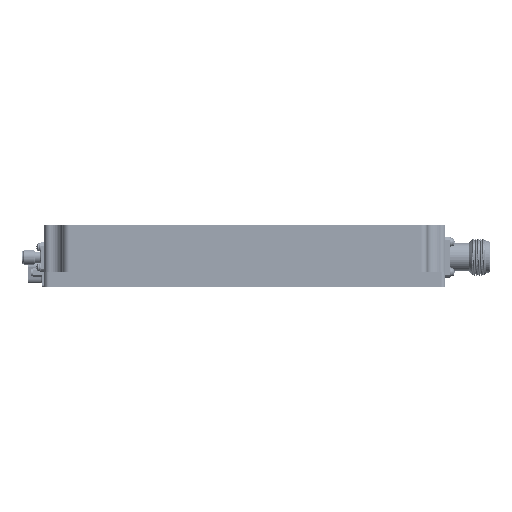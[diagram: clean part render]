
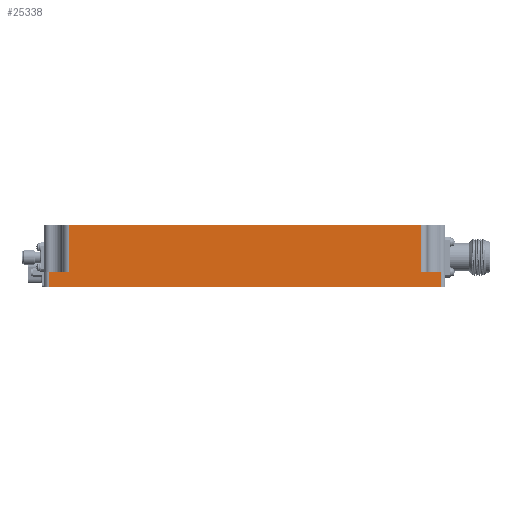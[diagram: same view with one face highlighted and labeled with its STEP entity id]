
A CAD part, front view. The second image highlights one B-rep face of the part: STEP entity #25338.
In plain terms, the highlighted planar face has unit normal (0, -1, 0).
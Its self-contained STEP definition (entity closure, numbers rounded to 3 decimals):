
#417 = DIRECTION ( 'NONE',  ( 0., 0., 1. ) ) ;
#1438 = CARTESIAN_POINT ( 'NONE',  ( 159.75, 0., 6.5 ) ) ;
#2581 = DIRECTION ( 'NONE',  ( 0., 0., 1. ) ) ;
#4139 = LINE ( 'NONE', #45220, #33274 ) ;
#6789 = VERTEX_POINT ( 'NONE', #10917 ) ;
#7140 = VECTOR ( 'NONE', #40854, 1000. ) ;
#8732 = CARTESIAN_POINT ( 'NONE',  ( 168., 0., 6.5 ) ) ;
#8807 = FACE_OUTER_BOUND ( 'NONE', #44968, .T. ) ;
#9371 = EDGE_CURVE ( 'NONE', #15246, #32336, #29115, .T. ) ;
#9707 = AXIS2_PLACEMENT_3D ( 'NONE', #25325, #9868, #2581 ) ;
#9868 = DIRECTION ( 'NONE',  ( 0., 1., 0. ) ) ;
#9988 = VECTOR ( 'NONE', #417, 1000. ) ;
#10379 = VERTEX_POINT ( 'NONE', #33245 ) ;
#10406 = VERTEX_POINT ( 'NONE', #11288 ) ;
#10917 = CARTESIAN_POINT ( 'NONE',  ( 168., 0., 6.5 ) ) ;
#10924 = DIRECTION ( 'NONE',  ( 0., 0., -1. ) ) ;
#11288 = CARTESIAN_POINT ( 'NONE',  ( 10.25, 0., 26.5 ) ) ;
#13109 = LINE ( 'NONE', #17039, #29178 ) ;
#15219 = DIRECTION ( 'NONE',  ( 0., 0., 1. ) ) ;
#15246 = VERTEX_POINT ( 'NONE', #22283 ) ;
#16875 = DIRECTION ( 'NONE',  ( 1., 0., 0. ) ) ;
#16929 = VECTOR ( 'NONE', #15219, 1000. ) ;
#17039 = CARTESIAN_POINT ( 'NONE',  ( 168., 0., 6.5 ) ) ;
#17541 = LINE ( 'NONE', #8732, #28827 ) ;
#18636 = VECTOR ( 'NONE', #20411, 1000. ) ;
#19412 = ORIENTED_EDGE ( 'NONE', *, *, #37785, .F. ) ;
#20323 = ORIENTED_EDGE ( 'NONE', *, *, #35957, .F. ) ;
#20411 = DIRECTION ( 'NONE',  ( 0., 0., -1. ) ) ;
#20572 = CARTESIAN_POINT ( 'NONE',  ( 159.75, 0., 26.5 ) ) ;
#21607 = DIRECTION ( 'NONE',  ( 1., 0., 0. ) ) ;
#22283 = CARTESIAN_POINT ( 'NONE',  ( 2., 0., 0. ) ) ;
#23787 = EDGE_CURVE ( 'NONE', #6789, #32336, #4139, .T. ) ;
#24559 = ORIENTED_EDGE ( 'NONE', *, *, #26324, .F. ) ;
#25159 = EDGE_CURVE ( 'NONE', #15246, #10379, #27840, .T. ) ;
#25325 = CARTESIAN_POINT ( 'NONE',  ( 2., 0., 6.5 ) ) ;
#25338 = ADVANCED_FACE ( 'NONE', ( #8807 ), #36812, .F. ) ;
#26324 = EDGE_CURVE ( 'NONE', #10406, #33702, #43860, .T. ) ;
#27163 = CARTESIAN_POINT ( 'NONE',  ( 2., 0., 6.5 ) ) ;
#27840 = LINE ( 'NONE', #27163, #9988 ) ;
#28570 = ORIENTED_EDGE ( 'NONE', *, *, #29760, .F. ) ;
#28827 = VECTOR ( 'NONE', #31985, 1000. ) ;
#29115 = LINE ( 'NONE', #44367, #7140 ) ;
#29178 = VECTOR ( 'NONE', #16875, 1000. ) ;
#29760 = EDGE_CURVE ( 'NONE', #32810, #10406, #37731, .T. ) ;
#29932 = LINE ( 'NONE', #20572, #18636 ) ;
#31370 = CARTESIAN_POINT ( 'NONE',  ( 168., 0., 0. ) ) ;
#31985 = DIRECTION ( 'NONE',  ( 1., 0., 0. ) ) ;
#32336 = VERTEX_POINT ( 'NONE', #31370 ) ;
#32810 = VERTEX_POINT ( 'NONE', #40347 ) ;
#33245 = CARTESIAN_POINT ( 'NONE',  ( 2., 0., 6.5 ) ) ;
#33274 = VECTOR ( 'NONE', #10924, 1000. ) ;
#33702 = VERTEX_POINT ( 'NONE', #47108 ) ;
#33703 = VECTOR ( 'NONE', #21607, 1000. ) ;
#35063 = ORIENTED_EDGE ( 'NONE', *, *, #25159, .F. ) ;
#35957 = EDGE_CURVE ( 'NONE', #48565, #6789, #17541, .T. ) ;
#36812 = PLANE ( 'NONE',  #9707 ) ;
#36893 = ORIENTED_EDGE ( 'NONE', *, *, #44893, .F. ) ;
#37731 = LINE ( 'NONE', #38529, #16929 ) ;
#37785 = EDGE_CURVE ( 'NONE', #33702, #48565, #29932, .T. ) ;
#38529 = CARTESIAN_POINT ( 'NONE',  ( 10.25, 0., 6.5 ) ) ;
#40347 = CARTESIAN_POINT ( 'NONE',  ( 10.25, 0., 6.5 ) ) ;
#40418 = CARTESIAN_POINT ( 'NONE',  ( 0., 0., 26.5 ) ) ;
#40854 = DIRECTION ( 'NONE',  ( 1., 0., 0. ) ) ;
#43860 = LINE ( 'NONE', #40418, #33703 ) ;
#44164 = ORIENTED_EDGE ( 'NONE', *, *, #9371, .T. ) ;
#44367 = CARTESIAN_POINT ( 'NONE',  ( 168., 0., 0. ) ) ;
#44893 = EDGE_CURVE ( 'NONE', #10379, #32810, #13109, .T. ) ;
#44968 = EDGE_LOOP ( 'NONE', ( #24559, #28570, #36893, #35063, #44164, #45600, #20323, #19412 ) ) ;
#45220 = CARTESIAN_POINT ( 'NONE',  ( 168., 0., 6.5 ) ) ;
#45600 = ORIENTED_EDGE ( 'NONE', *, *, #23787, .F. ) ;
#47108 = CARTESIAN_POINT ( 'NONE',  ( 159.75, 0., 26.5 ) ) ;
#48565 = VERTEX_POINT ( 'NONE', #1438 ) ;
